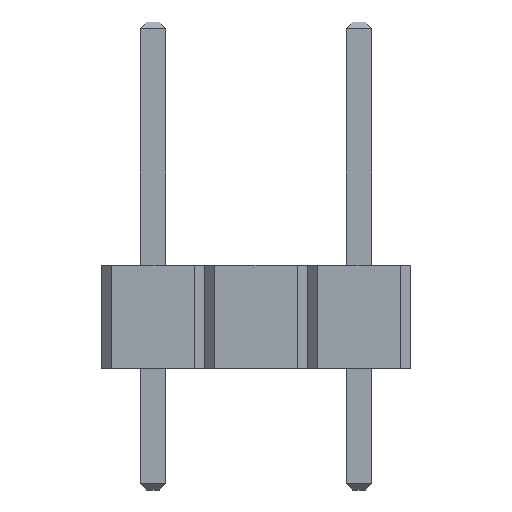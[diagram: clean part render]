
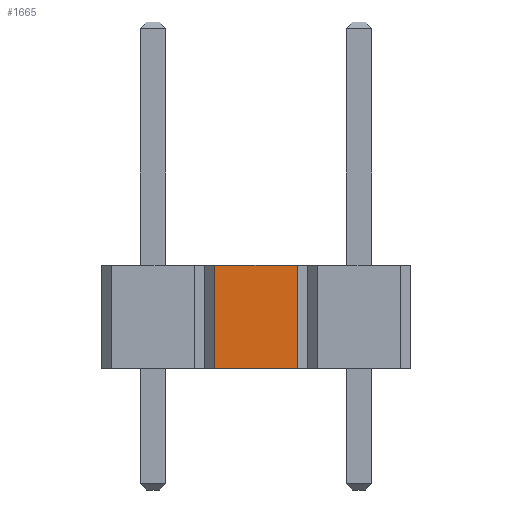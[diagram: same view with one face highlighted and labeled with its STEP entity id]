
A CAD part, left-side view. The second image highlights one B-rep face of the part: STEP entity #1665.
In plain terms, the highlighted planar face has unit normal (-1, 0, 0).
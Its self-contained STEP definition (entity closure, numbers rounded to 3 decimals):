
#1665 = ADVANCED_FACE('',(#1666),#1680,.F.);
#1666 = FACE_BOUND('',#1667,.F.);
#1667 = EDGE_LOOP('',(#1668,#1691,#1707,#1723));
#1668 = ORIENTED_EDGE('',*,*,#1669,.T.);
#1669 = EDGE_CURVE('',#1670,#1672,#1674,.T.);
#1670 = VERTEX_POINT('',#1671);
#1671 = CARTESIAN_POINT('',(-1.27,-1.524,0.));
#1672 = VERTEX_POINT('',#1673);
#1673 = CARTESIAN_POINT('',(-1.27,-1.524,2.54));
#1674 = SURFACE_CURVE('',#1675,(#1679),.PCURVE_S1.);
#1675 = LINE('',#1676,#1677);
#1676 = CARTESIAN_POINT('',(-1.27,-1.524,0.));
#1677 = VECTOR('',#1678,1.);
#1678 = DIRECTION('',(0.,0.,1.));
#1679 = PCURVE('',#1680,#1685);
#1680 = PLANE('',#1681);
#1681 = AXIS2_PLACEMENT_3D('',#1682,#1683,#1684);
#1682 = CARTESIAN_POINT('',(-1.27,-1.524,0.));
#1683 = DIRECTION('',(1.,0.,0.));
#1684 = DIRECTION('',(0.,-1.,0.));
#1685 = DEFINITIONAL_REPRESENTATION('',(#1686),#1690);
#1686 = LINE('',#1687,#1688);
#1687 = CARTESIAN_POINT('',(0.,0.));
#1688 = VECTOR('',#1689,1.);
#1689 = DIRECTION('',(0.,-1.));
#1690 = ( GEOMETRIC_REPRESENTATION_CONTEXT(2) 
PARAMETRIC_REPRESENTATION_CONTEXT() REPRESENTATION_CONTEXT('2D SPACE',''
  ) );
#1691 = ORIENTED_EDGE('',*,*,#1692,.T.);
#1692 = EDGE_CURVE('',#1672,#1693,#1695,.T.);
#1693 = VERTEX_POINT('',#1694);
#1694 = CARTESIAN_POINT('',(-1.27,-3.556,2.54));
#1695 = SURFACE_CURVE('',#1696,(#1700),.PCURVE_S1.);
#1696 = LINE('',#1697,#1698);
#1697 = CARTESIAN_POINT('',(-1.27,-1.524,2.54));
#1698 = VECTOR('',#1699,1.);
#1699 = DIRECTION('',(0.,-1.,0.));
#1700 = PCURVE('',#1680,#1701);
#1701 = DEFINITIONAL_REPRESENTATION('',(#1702),#1706);
#1702 = LINE('',#1703,#1704);
#1703 = CARTESIAN_POINT('',(0.,-2.54));
#1704 = VECTOR('',#1705,1.);
#1705 = DIRECTION('',(1.,0.));
#1706 = ( GEOMETRIC_REPRESENTATION_CONTEXT(2) 
PARAMETRIC_REPRESENTATION_CONTEXT() REPRESENTATION_CONTEXT('2D SPACE',''
  ) );
#1707 = ORIENTED_EDGE('',*,*,#1708,.F.);
#1708 = EDGE_CURVE('',#1709,#1693,#1711,.T.);
#1709 = VERTEX_POINT('',#1710);
#1710 = CARTESIAN_POINT('',(-1.27,-3.556,0.));
#1711 = SURFACE_CURVE('',#1712,(#1716),.PCURVE_S1.);
#1712 = LINE('',#1713,#1714);
#1713 = CARTESIAN_POINT('',(-1.27,-3.556,0.));
#1714 = VECTOR('',#1715,1.);
#1715 = DIRECTION('',(0.,0.,1.));
#1716 = PCURVE('',#1680,#1717);
#1717 = DEFINITIONAL_REPRESENTATION('',(#1718),#1722);
#1718 = LINE('',#1719,#1720);
#1719 = CARTESIAN_POINT('',(2.032,0.));
#1720 = VECTOR('',#1721,1.);
#1721 = DIRECTION('',(0.,-1.));
#1722 = ( GEOMETRIC_REPRESENTATION_CONTEXT(2) 
PARAMETRIC_REPRESENTATION_CONTEXT() REPRESENTATION_CONTEXT('2D SPACE',''
  ) );
#1723 = ORIENTED_EDGE('',*,*,#1724,.F.);
#1724 = EDGE_CURVE('',#1670,#1709,#1725,.T.);
#1725 = SURFACE_CURVE('',#1726,(#1730),.PCURVE_S1.);
#1726 = LINE('',#1727,#1728);
#1727 = CARTESIAN_POINT('',(-1.27,-1.524,0.));
#1728 = VECTOR('',#1729,1.);
#1729 = DIRECTION('',(0.,-1.,0.));
#1730 = PCURVE('',#1680,#1731);
#1731 = DEFINITIONAL_REPRESENTATION('',(#1732),#1736);
#1732 = LINE('',#1733,#1734);
#1733 = CARTESIAN_POINT('',(0.,0.));
#1734 = VECTOR('',#1735,1.);
#1735 = DIRECTION('',(1.,0.));
#1736 = ( GEOMETRIC_REPRESENTATION_CONTEXT(2) 
PARAMETRIC_REPRESENTATION_CONTEXT() REPRESENTATION_CONTEXT('2D SPACE',''
  ) );
